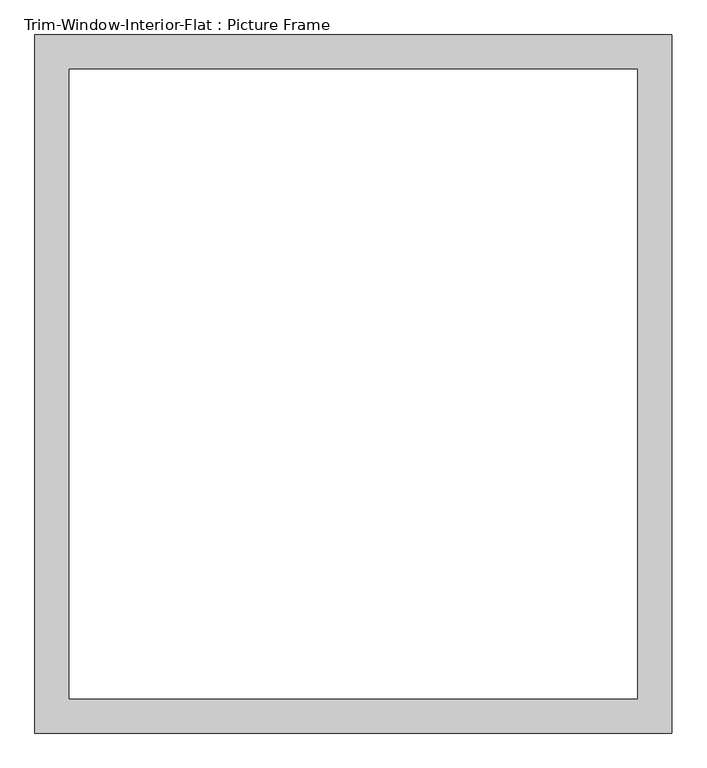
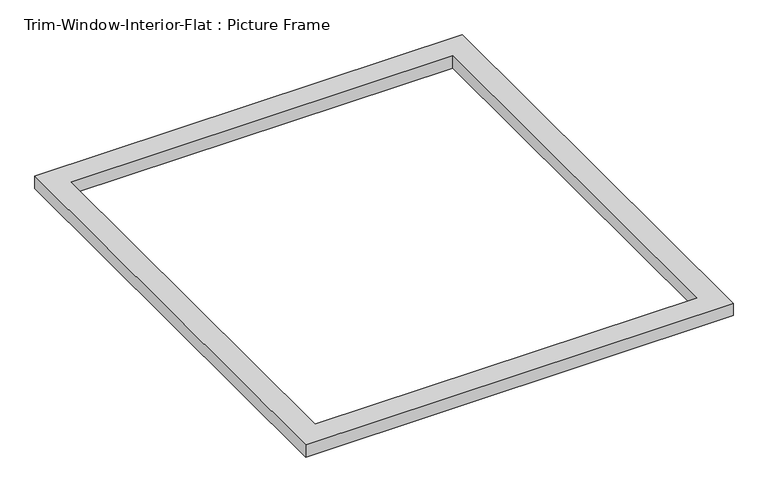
"""IFC4 building model written with IfcOpenShell, lengths in millimetres: proxy geometry, Trim-Window-Interior-Flat : Picture Frame."""

from ifc_helpers import new_model, si_unit, origin, origin_with_axes, place, context, project, spatial, polyline, outline, extrude, source, transform, mapped, element, save


def trim_window_interior_flat_picture_frame_62b75368(model_context):
    return source(origin(), model_context, "Body", "SweptSolid", [
        extrude(outline(polyline([(527.05, 44.45), (527.05, -1111.25), (-527.05, -1111.25), (-527.05, 44.45), (527.05, 44.45)]), holes=[polyline([(469.9, -12.7), (-469.9, -12.7), (-469.9, -1054.1), (469.9, -1054.1), (469.9, -12.7)])]), origin_with_axes(), (0.0, 0.0, 1.0), 31.75),
    ])


if __name__ == "__main__":
    model = new_model("IFC4")
    model_context = context("Model", 3, world=origin())
    ifc_project = project(units=[si_unit("LENGTHUNIT", "METRE", prefix="MILLI")], contexts=[model_context])
    site = spatial("IfcSite", under=ifc_project)
    building = spatial("IfcBuilding", under=site)
    placement = place(None, origin())
    trim_window_interior_flat_picture_frame_shape = trim_window_interior_flat_picture_frame_62b75368(model_context)
    element("IfcBuildingElementProxy", 1, Name="Trim-Window-Interior-Flat : Picture Frame", ObjectType="Trim-Window-Interior-Flat : Picture Frame", at=placement, inside=building, context=model_context, shape_type="MappedRepresentation", body=[
        mapped(trim_window_interior_flat_picture_frame_shape, transform((0.0, 0.0, 0.0), x_axis=(1.0, 0.0, 0.0), y_axis=(0.0, 1.0, 0.0), z_axis=(0.0, 0.0, 1.0))),
    ])
    save(model, "model.ifc")
